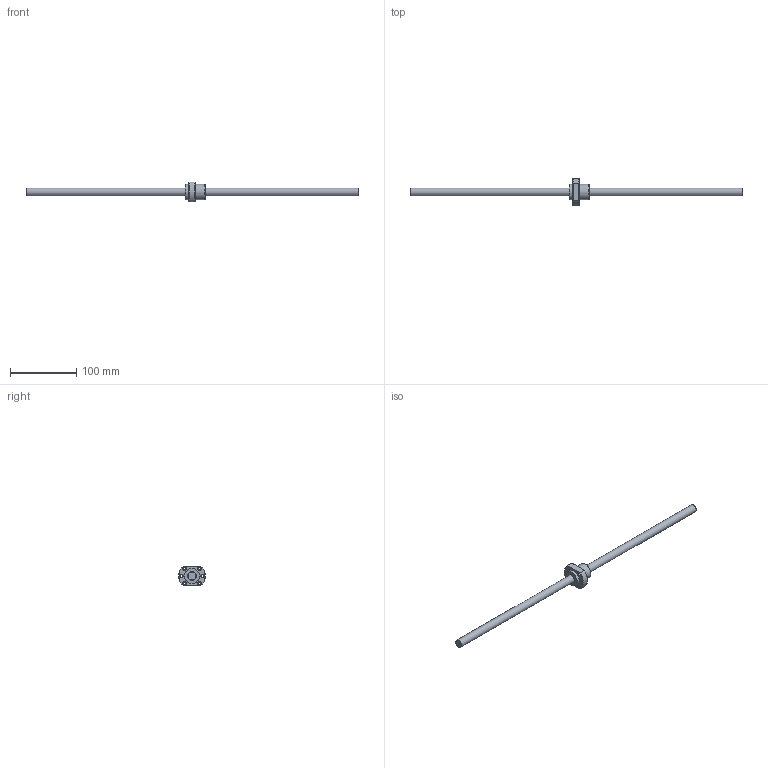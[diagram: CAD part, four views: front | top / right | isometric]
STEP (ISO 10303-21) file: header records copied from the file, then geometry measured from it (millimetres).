
FILE_DESCRIPTION (( 'STEP AP203' ), '1' );
FILE_NAME ('SFA1205-2.8.step', '2024-05-07T07:24:33', ( '' ), ( '' ), 'SwSTEP 2.0', 'SolidWorks 2022', '' );
FILE_SCHEMA (( 'CONFIG_CONTROL_DESIGN' ));
Length unit declared in the file: millimetre
Products named in the file (1): SFA1205-2.8
Bounding box: 500 x 40 x 30 mm (x, y, z)
Volume: 71300.6 mm3; surface area: 25425.5 mm2
Topology: 2 solids, 2 shells, 42 faces, 87 edges, 51 vertices
Faces by surface type: plane 12, cylinder 12, cone 12, torus 6
Full cylindrical faces by diameter (mm): 4.5 x6, 12 x1, 13.1 x1, 24 x2
Entity records: 1151 total; most frequent: CARTESIAN_POINT 243, DIRECTION 182, ORIENTED_EDGE 124, AXIS2_PLACEMENT_3D 85, EDGE_LOOP 82, EDGE_CURVE 62, FACE_OUTER_BOUND 54, VERTEX_POINT 50
